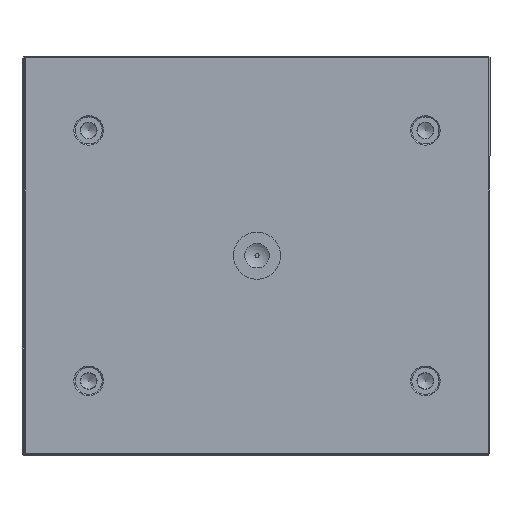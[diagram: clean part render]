
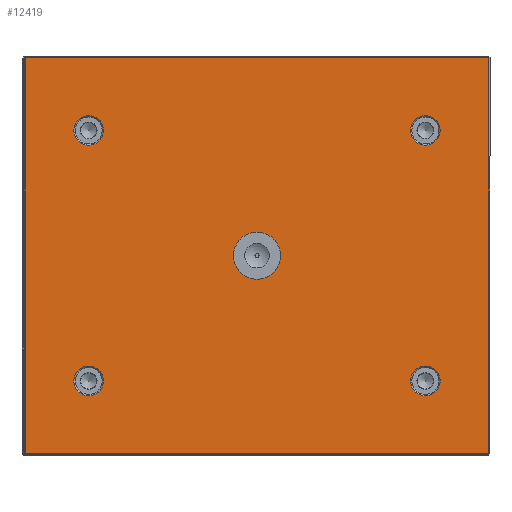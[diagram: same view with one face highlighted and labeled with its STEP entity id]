
A CAD part, top view. The second image highlights one B-rep face of the part: STEP entity #12419.
In plain terms, the highlighted planar face has unit normal (0, 0, 1) as drawn and (0, 0, -1) by its records, which use the part's own axes.
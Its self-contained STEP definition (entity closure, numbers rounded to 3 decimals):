
#12419 = ADVANCED_FACE( '', ( #26664, #26665, #26666, #26667, #26668, #26669 ), #26670, .F. );
#26664 = FACE_BOUND( '', #70412, .T. );
#26665 = FACE_BOUND( '', #70413, .T. );
#26666 = FACE_BOUND( '', #70414, .T. );
#26667 = FACE_BOUND( '', #70415, .T. );
#26668 = FACE_BOUND( '', #70416, .T. );
#26669 = FACE_OUTER_BOUND( '', #70417, .T. );
#26670 = PLANE( '', #70418 );
#70412 = EDGE_LOOP( '', ( #123662 ) );
#70413 = EDGE_LOOP( '', ( #123663 ) );
#70414 = EDGE_LOOP( '', ( #123664 ) );
#70415 = EDGE_LOOP( '', ( #123665 ) );
#70416 = EDGE_LOOP( '', ( #123666 ) );
#70417 = EDGE_LOOP( '', ( #123667, #123668, #123669, #123670 ) );
#70418 = AXIS2_PLACEMENT_3D( '', #123671, #123672, #123673 );
#123662 = ORIENTED_EDGE( '', *, *, #150376, .F. );
#123663 = ORIENTED_EDGE( '', *, *, #140518, .T. );
#123664 = ORIENTED_EDGE( '', *, *, #154339, .T. );
#123665 = ORIENTED_EDGE( '', *, *, #154340, .T. );
#123666 = ORIENTED_EDGE( '', *, *, #146561, .T. );
#123667 = ORIENTED_EDGE( '', *, *, #148627, .T. );
#123668 = ORIENTED_EDGE( '', *, *, #141239, .T. );
#123669 = ORIENTED_EDGE( '', *, *, #150817, .T. );
#123670 = ORIENTED_EDGE( '', *, *, #154341, .T. );
#123671 = CARTESIAN_POINT( '', ( 0., 0., -27. ) );
#123672 = DIRECTION( '', ( 0., 0., 1. ) );
#123673 = DIRECTION( '', ( 1., 0., 0. ) );
#140518 = EDGE_CURVE( '', #158268, #158268, #158269, .T. );
#141239 = EDGE_CURVE( '', #159560, #159558, #159561, .T. );
#146561 = EDGE_CURVE( '', #168583, #168583, #168584, .T. );
#148627 = EDGE_CURVE( '', #171787, #159560, #171790, .T. );
#150376 = EDGE_CURVE( '', #174305, #174305, #174306, .T. );
#150817 = EDGE_CURVE( '', #159558, #174930, #174932, .T. );
#154339 = EDGE_CURVE( '', #179511, #179511, #179512, .T. );
#154340 = EDGE_CURVE( '', #179513, #179513, #179514, .T. );
#154341 = EDGE_CURVE( '', #174930, #171787, #179515, .T. );
#158268 = VERTEX_POINT( '', #184115 );
#158269 = CIRCLE( '', #184116, 11. );
#159558 = VERTEX_POINT( '', #187667 );
#159560 = VERTEX_POINT( '', #187670 );
#159561 = LINE( '', #187671, #187672 );
#168583 = VERTEX_POINT( '', #208222 );
#168584 = CIRCLE( '', #208223, 11. );
#171787 = VERTEX_POINT( '', #215535 );
#171790 = LINE( '', #215540, #215541 );
#174305 = VERTEX_POINT( '', #221964 );
#174306 = CIRCLE( '', #221965, 17.5 );
#174930 = VERTEX_POINT( '', #223497 );
#174932 = LINE( '', #223500, #223501 );
#179511 = VERTEX_POINT( '', #234243 );
#179512 = CIRCLE( '', #234244, 11. );
#179513 = VERTEX_POINT( '', #234245 );
#179514 = CIRCLE( '', #234246, 11. );
#179515 = LINE( '', #234247, #234248 );
#184115 = CARTESIAN_POINT( '', ( -114., -93., -27. ) );
#184116 = AXIS2_PLACEMENT_3D( '', #243258, #243259, #243260 );
#187667 = CARTESIAN_POINT( '', ( 172., -147., -27. ) );
#187670 = CARTESIAN_POINT( '', ( 172., 147., -27. ) );
#187671 = CARTESIAN_POINT( '', ( 172., -148., -27. ) );
#187672 = VECTOR( '', #244231, 1000. );
#208222 = CARTESIAN_POINT( '', ( 136., 93., -27. ) );
#208223 = AXIS2_PLACEMENT_3D( '', #251178, #251179, #251180 );
#215535 = CARTESIAN_POINT( '', ( -172., 147., -27. ) );
#215540 = CARTESIAN_POINT( '', ( 173., 147., -27. ) );
#215541 = VECTOR( '', #253863, 1000. );
#221964 = CARTESIAN_POINT( '', ( -17.5, 0., -27. ) );
#221965 = AXIS2_PLACEMENT_3D( '', #256116, #256117, #256118 );
#223497 = CARTESIAN_POINT( '', ( -172., -147., -27. ) );
#223500 = CARTESIAN_POINT( '', ( -173., -147., -27. ) );
#223501 = VECTOR( '', #256678, 1000. );
#234243 = CARTESIAN_POINT( '', ( -114., 93., -27. ) );
#234244 = AXIS2_PLACEMENT_3D( '', #260758, #260759, #260760 );
#234245 = CARTESIAN_POINT( '', ( 136., -93., -27. ) );
#234246 = AXIS2_PLACEMENT_3D( '', #260761, #260762, #260763 );
#234247 = CARTESIAN_POINT( '', ( -172., 148., -27. ) );
#234248 = VECTOR( '', #260764, 1000. );
#243258 = CARTESIAN_POINT( '', ( -125., -93., -27. ) );
#243259 = DIRECTION( '', ( 0., 0., 1. ) );
#243260 = DIRECTION( '', ( 1., 0., 0. ) );
#244231 = DIRECTION( '', ( 0., -1., 0. ) );
#251178 = CARTESIAN_POINT( '', ( 125., 93., -27. ) );
#251179 = DIRECTION( '', ( 0., 0., 1. ) );
#251180 = DIRECTION( '', ( 1., 0., 0. ) );
#253863 = DIRECTION( '', ( 1., 0., 0. ) );
#256116 = CARTESIAN_POINT( '', ( 0., 0., -27. ) );
#256117 = DIRECTION( '', ( 0., 0., -1. ) );
#256118 = DIRECTION( '', ( -1., 0., 0. ) );
#256678 = DIRECTION( '', ( -1., 0., 0. ) );
#260758 = CARTESIAN_POINT( '', ( -125., 93., -27. ) );
#260759 = DIRECTION( '', ( 0., 0., 1. ) );
#260760 = DIRECTION( '', ( 1., 0., 0. ) );
#260761 = CARTESIAN_POINT( '', ( 125., -93., -27. ) );
#260762 = DIRECTION( '', ( 0., 0., 1. ) );
#260763 = DIRECTION( '', ( 1., 0., 0. ) );
#260764 = DIRECTION( '', ( 0., 1., 0. ) );
